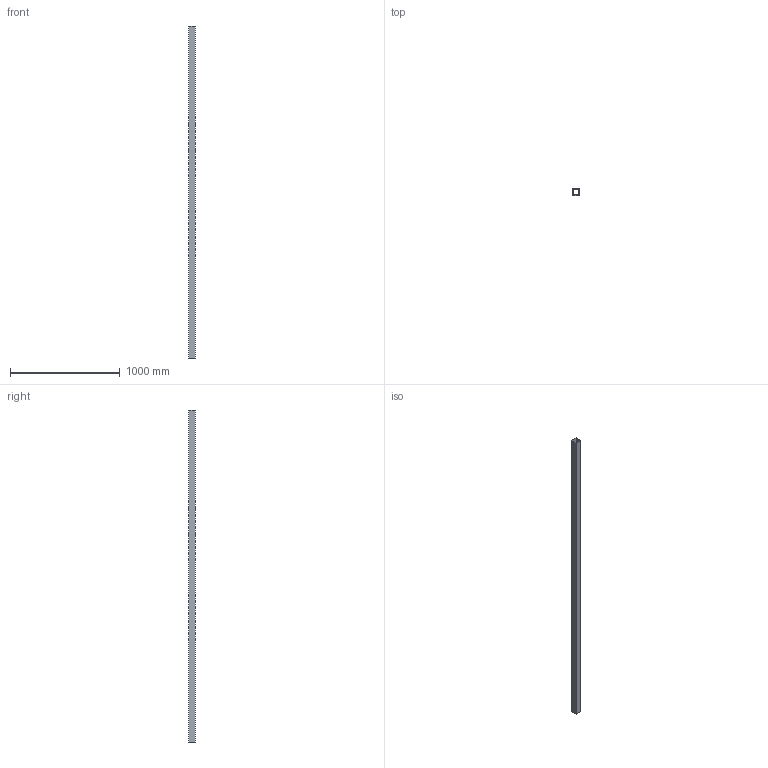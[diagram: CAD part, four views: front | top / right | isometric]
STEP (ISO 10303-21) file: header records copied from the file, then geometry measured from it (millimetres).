
FILE_DESCRIPTION(('Open CASCADE Model'),'2;1');
FILE_NAME('Open CASCADE Shape Model','2026-10-19T10:09:26',('Author'),( 'Open CASCADE'),'Open CASCADE STEP processor 8.0','Open CASCADE 8.0' ,'Unknown');
FILE_SCHEMA(('AUTOMOTIVE_DESIGN { 1 0 10303 214 1 1 1 1 }'));
Length unit declared in the file: millimetre
Products named in the file (1): SHS60x60x4_L3050000_P05_JUNTA_16 159
Bounding box: 60 x 60 x 3022 mm (x, y, z)
Volume: 2707712 mm3; surface area: 1355648 mm2
Topology: 1 solids, 1 shells, 10 faces, 24 edges, 16 vertices
Faces by surface type: plane 10
Entity records: 614 total; most frequent: CARTESIAN_POINT 99, DIRECTION 94, LINE 72, VECTOR 72, ORIENTED_EDGE 48, PCURVE 48, DEFINITIONAL_REPRESENTATION 48, EDGE_CURVE 24
